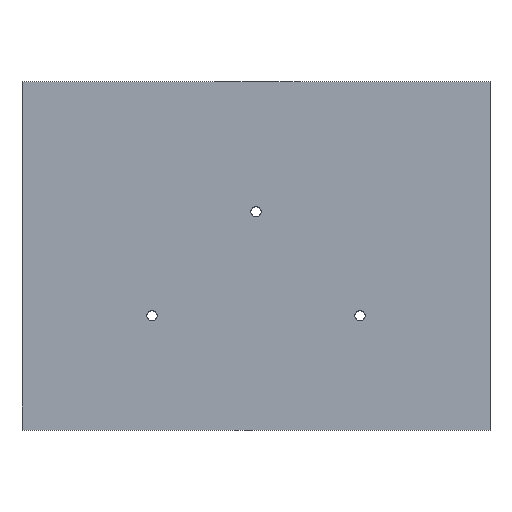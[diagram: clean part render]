
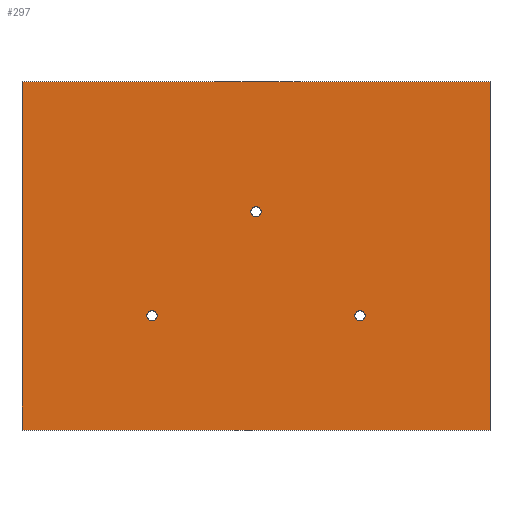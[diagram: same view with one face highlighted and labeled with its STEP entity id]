
A CAD part, top view. The second image highlights one B-rep face of the part: STEP entity #297.
In plain terms, the highlighted planar face has unit normal (0, 0, 1).
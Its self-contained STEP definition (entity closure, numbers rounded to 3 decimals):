
#2 = LINE ( 'NONE', #1583, #226 ) ;
#13 = DIRECTION ( 'NONE',  ( 0., -1., 0. ) ) ;
#23 = LINE ( 'NONE', #764, #671 ) ;
#35 = EDGE_CURVE ( 'NONE', #1604, #1545, #23, .T. ) ;
#58 = CARTESIAN_POINT ( 'NONE',  ( 20., -11.5, 19. ) ) ;
#64 = DIRECTION ( 'NONE',  ( 1., 0., 0. ) ) ;
#79 = VERTEX_POINT ( 'NONE', #862 ) ;
#91 = AXIS2_PLACEMENT_3D ( 'NONE', #1450, #587, #1459 ) ;
#93 = FACE_BOUND ( 'NONE', #908, .T. ) ;
#105 = CARTESIAN_POINT ( 'NONE',  ( -19., -11.5, 19. ) ) ;
#111 = CARTESIAN_POINT ( 'NONE',  ( -45., 33.5, 19. ) ) ;
#126 = CIRCLE ( 'NONE', #198, 1. ) ;
#138 = CARTESIAN_POINT ( 'NONE',  ( 20., -11.5, 19. ) ) ;
#151 = CARTESIAN_POINT ( 'NONE',  ( -45., 33.5, 19. ) ) ;
#179 = DIRECTION ( 'NONE',  ( 1., 0., 0. ) ) ;
#198 = AXIS2_PLACEMENT_3D ( 'NONE', #939, #1442, #64 ) ;
#210 = EDGE_LOOP ( 'NONE', ( #645, #783 ) ) ;
#222 = VERTEX_POINT ( 'NONE', #1040 ) ;
#226 = VECTOR ( 'NONE', #461, 1000. ) ;
#252 = EDGE_CURVE ( 'NONE', #1031, #1492, #1607, .T. ) ;
#253 = DIRECTION ( 'NONE',  ( 0., 0., 1. ) ) ;
#288 = ORIENTED_EDGE ( 'NONE', *, *, #440, .T. ) ;
#293 = EDGE_LOOP ( 'NONE', ( #1372, #861, #1299, #288 ) ) ;
#297 = ADVANCED_FACE ( 'NONE', ( #93, #1468, #1320, #475 ), #1338, .T. ) ;
#387 = EDGE_LOOP ( 'NONE', ( #1515, #1324 ) ) ;
#424 = CARTESIAN_POINT ( 'NONE',  ( 1., 8.5, 19. ) ) ;
#440 = EDGE_CURVE ( 'NONE', #79, #1604, #1013, .T. ) ;
#448 = DIRECTION ( 'NONE',  ( 0., 0., 1. ) ) ;
#461 = DIRECTION ( 'NONE',  ( 0., 1., 0. ) ) ;
#472 = DIRECTION ( 'NONE',  ( 1., 0., 0. ) ) ;
#475 = FACE_BOUND ( 'NONE', #210, .T. ) ;
#484 = CIRCLE ( 'NONE', #1547, 1. ) ;
#505 = VERTEX_POINT ( 'NONE', #543 ) ;
#541 = AXIS2_PLACEMENT_3D ( 'NONE', #1444, #709, #1193 ) ;
#543 = CARTESIAN_POINT ( 'NONE',  ( 19., -11.5, 19. ) ) ;
#552 = CARTESIAN_POINT ( 'NONE',  ( -45., -33.5, 19. ) ) ;
#560 = CARTESIAN_POINT ( 'NONE',  ( -1., 8.5, 19. ) ) ;
#572 = ORIENTED_EDGE ( 'NONE', *, *, #623, .F. ) ;
#587 = DIRECTION ( 'NONE',  ( 0., 0., 1. ) ) ;
#589 = DIRECTION ( 'NONE',  ( 1., 0., 0. ) ) ;
#590 = VERTEX_POINT ( 'NONE', #720 ) ;
#600 = CIRCLE ( 'NONE', #969, 1. ) ;
#604 = CIRCLE ( 'NONE', #1546, 1. ) ;
#623 = EDGE_CURVE ( 'NONE', #590, #729, #604, .T. ) ;
#645 = ORIENTED_EDGE ( 'NONE', *, *, #1116, .F. ) ;
#648 = DIRECTION ( 'NONE',  ( -1., 0., 0. ) ) ;
#656 = EDGE_CURVE ( 'NONE', #1144, #79, #2, .T. ) ;
#671 = VECTOR ( 'NONE', #13, 1000. ) ;
#709 = DIRECTION ( 'NONE',  ( 0., 0., 1. ) ) ;
#720 = CARTESIAN_POINT ( 'NONE',  ( -21., -11.5, 19. ) ) ;
#729 = VERTEX_POINT ( 'NONE', #105 ) ;
#741 = EDGE_CURVE ( 'NONE', #1545, #1144, #1224, .T. ) ;
#764 = CARTESIAN_POINT ( 'NONE',  ( -45., 33.5, 19. ) ) ;
#767 = DIRECTION ( 'NONE',  ( 1., 0., 0. ) ) ;
#783 = ORIENTED_EDGE ( 'NONE', *, *, #1001, .F. ) ;
#796 = EDGE_CURVE ( 'NONE', #1492, #1031, #600, .T. ) ;
#802 = CARTESIAN_POINT ( 'NONE',  ( 45., -33.5, 19. ) ) ;
#836 = CIRCLE ( 'NONE', #1044, 1. ) ;
#861 = ORIENTED_EDGE ( 'NONE', *, *, #741, .T. ) ;
#862 = CARTESIAN_POINT ( 'NONE',  ( 45., 33.5, 19. ) ) ;
#908 = EDGE_LOOP ( 'NONE', ( #572, #1430 ) ) ;
#939 = CARTESIAN_POINT ( 'NONE',  ( -20., -11.5, 19. ) ) ;
#947 = DIRECTION ( 'NONE',  ( 1., 0., 0. ) ) ;
#969 = AXIS2_PLACEMENT_3D ( 'NONE', #1562, #448, #947 ) ;
#1001 = EDGE_CURVE ( 'NONE', #222, #505, #836, .T. ) ;
#1013 = LINE ( 'NONE', #151, #1417 ) ;
#1031 = VERTEX_POINT ( 'NONE', #424 ) ;
#1040 = CARTESIAN_POINT ( 'NONE',  ( 21., -11.5, 19. ) ) ;
#1044 = AXIS2_PLACEMENT_3D ( 'NONE', #138, #1130, #767 ) ;
#1102 = EDGE_CURVE ( 'NONE', #729, #590, #126, .T. ) ;
#1116 = EDGE_CURVE ( 'NONE', #505, #222, #484, .T. ) ;
#1130 = DIRECTION ( 'NONE',  ( 0., 0., 1. ) ) ;
#1144 = VERTEX_POINT ( 'NONE', #802 ) ;
#1177 = VECTOR ( 'NONE', #472, 1000. ) ;
#1193 = DIRECTION ( 'NONE',  ( 1., 0., 0. ) ) ;
#1214 = CARTESIAN_POINT ( 'NONE',  ( -45., -33.5, 19. ) ) ;
#1224 = LINE ( 'NONE', #1214, #1177 ) ;
#1299 = ORIENTED_EDGE ( 'NONE', *, *, #656, .T. ) ;
#1320 = FACE_BOUND ( 'NONE', #387, .T. ) ;
#1324 = ORIENTED_EDGE ( 'NONE', *, *, #252, .F. ) ;
#1338 = PLANE ( 'NONE',  #91 ) ;
#1372 = ORIENTED_EDGE ( 'NONE', *, *, #35, .T. ) ;
#1417 = VECTOR ( 'NONE', #648, 1000. ) ;
#1430 = ORIENTED_EDGE ( 'NONE', *, *, #1102, .F. ) ;
#1442 = DIRECTION ( 'NONE',  ( 0., 0., 1. ) ) ;
#1444 = CARTESIAN_POINT ( 'NONE',  ( 0., 8.5, 19. ) ) ;
#1450 = CARTESIAN_POINT ( 'NONE',  ( 0., 0., 19. ) ) ;
#1459 = DIRECTION ( 'NONE',  ( 1., 0., 0. ) ) ;
#1468 = FACE_OUTER_BOUND ( 'NONE', #293, .T. ) ;
#1475 = CARTESIAN_POINT ( 'NONE',  ( -20., -11.5, 19. ) ) ;
#1492 = VERTEX_POINT ( 'NONE', #560 ) ;
#1515 = ORIENTED_EDGE ( 'NONE', *, *, #796, .F. ) ;
#1538 = DIRECTION ( 'NONE',  ( 0., 0., 1. ) ) ;
#1545 = VERTEX_POINT ( 'NONE', #552 ) ;
#1546 = AXIS2_PLACEMENT_3D ( 'NONE', #1475, #253, #589 ) ;
#1547 = AXIS2_PLACEMENT_3D ( 'NONE', #58, #1538, #179 ) ;
#1562 = CARTESIAN_POINT ( 'NONE',  ( 0., 8.5, 19. ) ) ;
#1583 = CARTESIAN_POINT ( 'NONE',  ( 45., 33.5, 19. ) ) ;
#1604 = VERTEX_POINT ( 'NONE', #111 ) ;
#1607 = CIRCLE ( 'NONE', #541, 1. ) ;
